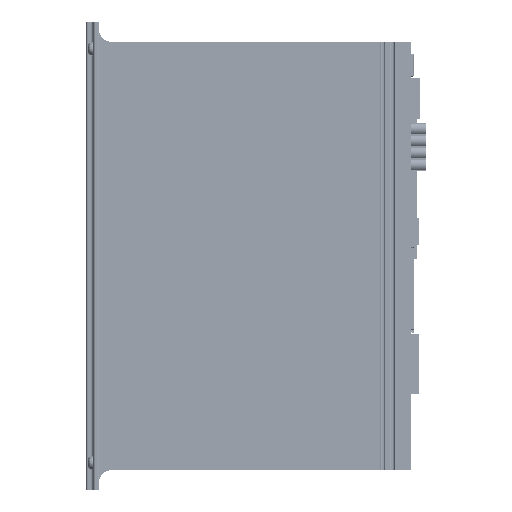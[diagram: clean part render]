
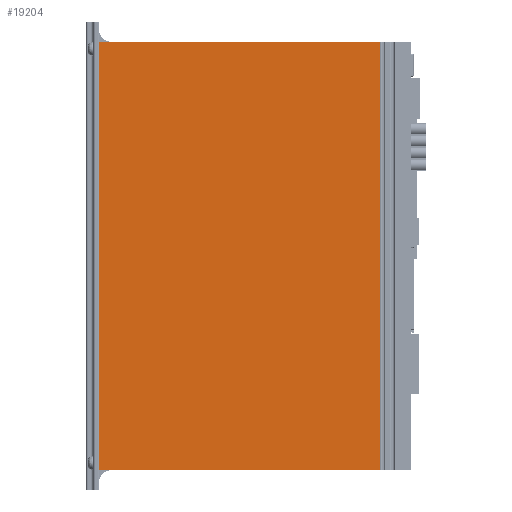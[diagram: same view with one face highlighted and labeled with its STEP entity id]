
A CAD part, front view. The second image highlights one B-rep face of the part: STEP entity #19204.
In plain terms, the highlighted planar face has unit normal (0, -1, 0) as drawn and (-1, 0, 0) by its records, which use the part's own axes.
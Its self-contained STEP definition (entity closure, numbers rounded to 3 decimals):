
#8982=DIRECTION('',(0.,-1.,0.));
#8983=VECTOR('',#8982,179.4);
#8984=CARTESIAN_POINT('',(-23.5,89.7,13.));
#8985=LINE('',#8984,#8983);
#8989=DIRECTION('',(0.,0.,-1.));
#8990=VECTOR('',#8989,118.1);
#8991=CARTESIAN_POINT('',(-23.5,89.7,131.1));
#8992=LINE('',#8991,#8990);
#8996=DIRECTION('',(0.,0.,-1.));
#8997=VECTOR('',#8996,118.1);
#8998=CARTESIAN_POINT('',(-23.5,-89.7,131.1));
#8999=LINE('',#8998,#8997);
#11299=DIRECTION('',(0.,-1.,0.));
#11300=VECTOR('',#11299,179.4);
#11301=CARTESIAN_POINT('',(-23.5,89.7,131.1));
#11302=LINE('',#11301,#11300);
#17481=CARTESIAN_POINT('',(-23.5,-89.7,131.1));
#17483=VERTEX_POINT('',#17481);
#17510=CARTESIAN_POINT('',(-23.5,89.7,131.1));
#17512=VERTEX_POINT('',#17510);
#17993=CARTESIAN_POINT('',(-23.5,89.7,13.));
#17994=CARTESIAN_POINT('',(-23.5,-89.7,13.));
#17995=VERTEX_POINT('',#17993);
#17996=VERTEX_POINT('',#17994);
#19189=CARTESIAN_POINT('',(-23.5,90.,0.));
#19190=DIRECTION('',(-1.,0.,0.));
#19191=DIRECTION('',(0.,-1.,0.));
#19192=AXIS2_PLACEMENT_3D('',#19189,#19190,#19191);
#19193=PLANE('',#19192);
#19195=ORIENTED_EDGE('',*,*,#19194,.F.);
#19197=ORIENTED_EDGE('',*,*,#19196,.F.);
#19199=ORIENTED_EDGE('',*,*,#19198,.T.);
#19201=ORIENTED_EDGE('',*,*,#19200,.T.);
#19202=EDGE_LOOP('',(#19195,#19197,#19199,#19201));
#19203=FACE_OUTER_BOUND('',#19202,.F.);
#19194=EDGE_CURVE('',#17995,#17996,#8985,.T.);
#19196=EDGE_CURVE('',#17512,#17995,#8992,.T.);
#19198=EDGE_CURVE('',#17512,#17483,#11302,.T.);
#19200=EDGE_CURVE('',#17483,#17996,#8999,.T.);
#19204=ADVANCED_FACE('',(#19203),#19193,.T.);
